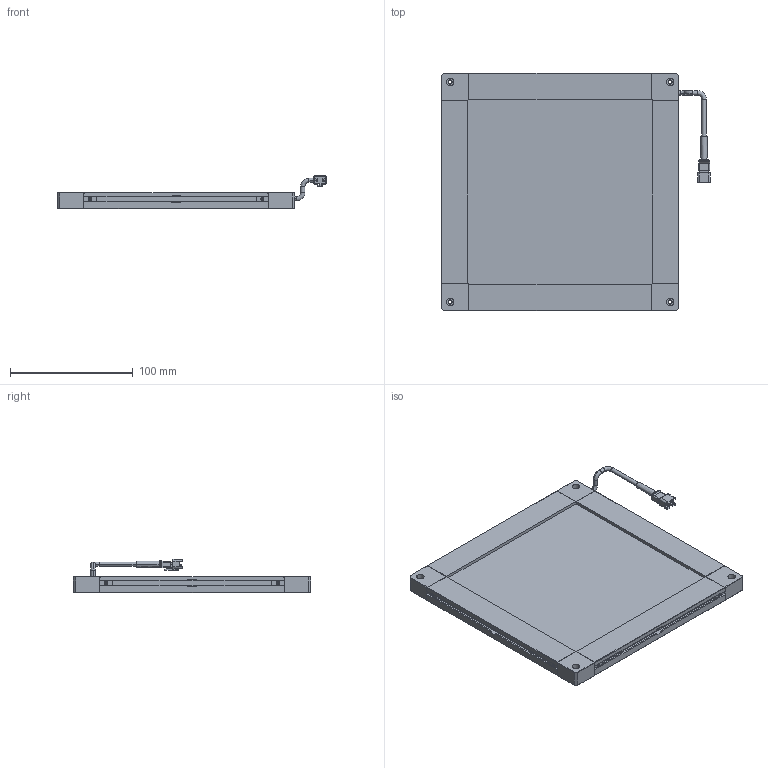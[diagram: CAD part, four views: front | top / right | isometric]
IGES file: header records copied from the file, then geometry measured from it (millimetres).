
Start section: SolidWorks IGES file using NURBS representation for surfaces
Bounding box: 218.85 x 193 x 27.1 mm (x, y, z)
Surface area: 103772 mm2 (no closed solid volume)
Topology: 0 solids, 0 shells, 497 faces, 4559 edges, 4559 vertices
Faces by surface type: bspline 497
